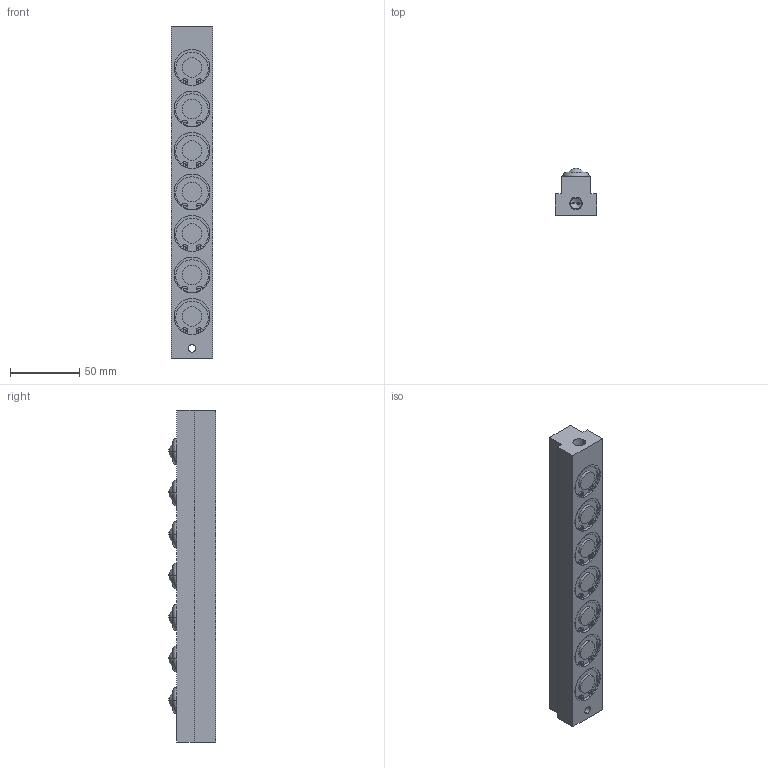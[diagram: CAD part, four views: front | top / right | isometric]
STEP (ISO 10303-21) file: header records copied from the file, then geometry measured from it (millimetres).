
FILE_DESCRIPTION (( 'STEP AP203' ), '1' );
FILE_NAME ('PVL20T-7.STEP', '2015-12-24T07:10:47', ( '' ), ( '' ), 'SwSTEP 2.0', 'SolidWorks 2013', '' );
FILE_SCHEMA (( 'CONFIG_CONTROL_DESIGN' ));
Length unit declared in the file: millimetre
Products named in the file (1): PVL20T-7
Bounding box: 30 x 34 x 240 mm (x, y, z)
Volume: 175609.3 mm3; surface area: 33037.9 mm2
Topology: 1 solids, 1 shells, 218 faces, 521 edges, 348 vertices
Faces by surface type: cylinder 118, plane 68, torus 14, sphere 14, cone 4
Entity records: 6576 total; most frequent: DIRECTION 1281, CARTESIAN_POINT 1086, ORIENTED_EDGE 1038, AXIS2_PLACEMENT_3D 543, EDGE_CURVE 519, VERTEX_POINT 348, CIRCLE 324, EDGE_LOOP 265
